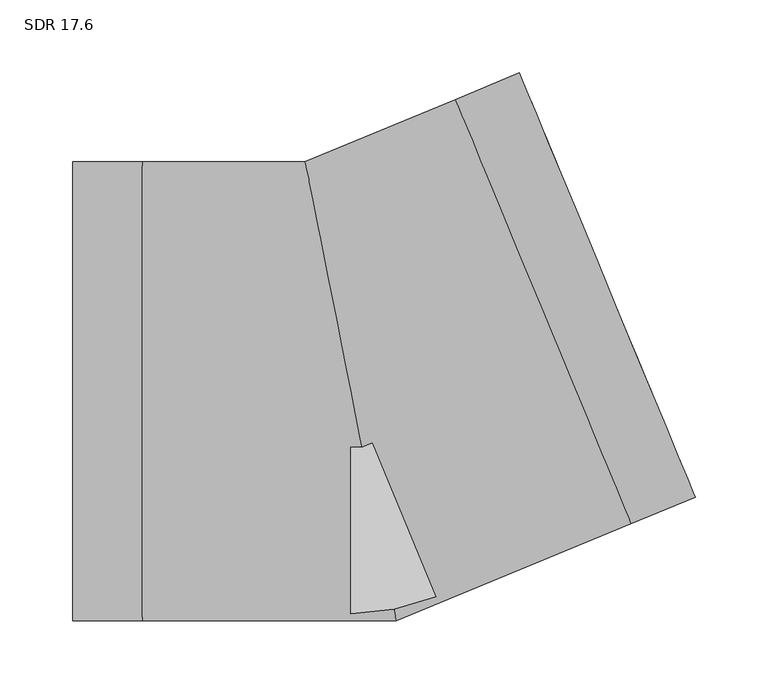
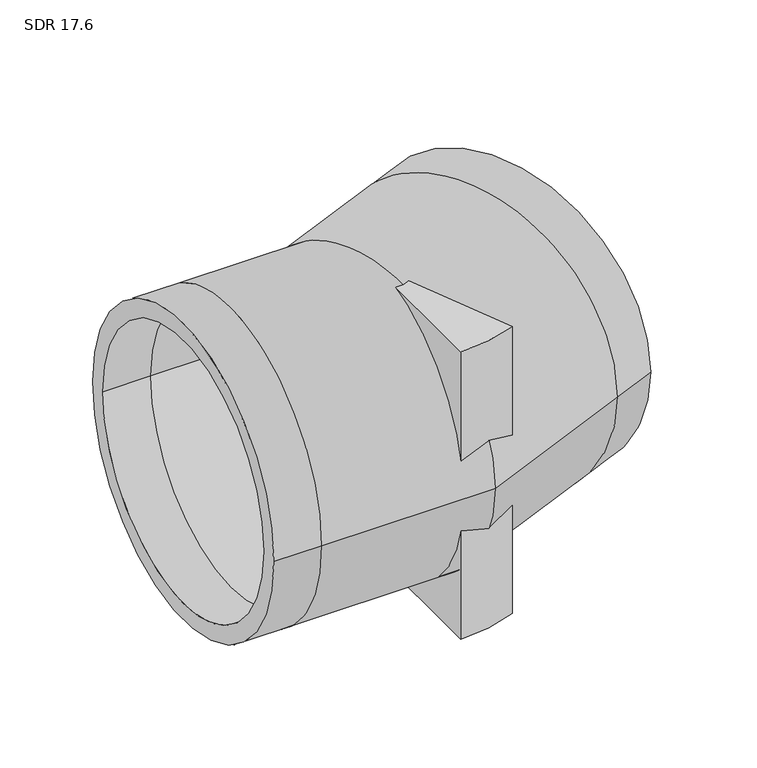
"""IFC4 building model written with IfcOpenShell, lengths in millimetres: pipe fitting geometry, Aquatherm - Elbow Blue BW Segmented : SDR 17.6."""

from ifc_helpers import new_model, si_unit, point, frame, origin, origin_with_axes, origin_2d, place, context, project, spatial, polyline, circle_curve, ellipse_curve, trimmed, segment, composite_curve, outline, extrude, source, transform, mapped, element, save
from ifc_brep_helpers import plane_surface, cylinder_surface, revolved_surface, advanced_brep


def sdr_17_6_59ab2738(model_context):
    return source(origin(), model_context, "Body", "SolidModel", [
        extrude(outline(composite_curve([segment(polyline([(0.0, -152.4), (0.0, 0.0), (58.3209551, -140.7992408)]), True, "CONTINUOUS"), segment(trimmed(circle_curve(origin_2d(), 152.4), [point((58.3209551, -140.7992408))], [point((0.0, -152.4))], False, "CARTESIAN"), True, "CONTINUOUS")], self_intersect=False)), frame((0.0, 0.0, -152.4), z_axis=(0.0, 0.0, 1.0), x_axis=(1.0, 0.0, 0.0)), (0.0, 0.0, 1.0), 152.4),
        extrude(outline(composite_curve([segment(trimmed(circle_curve(origin_2d(), 152.4), [point((58.3209551, -140.7992408))], [point((0.0, -152.4))], False, "CARTESIAN"), True, "CONTINUOUS"), segment(polyline([(0.0, -152.4), (0.0, 0.0), (58.3209551, -140.7992408)]), True, "CONTINUOUS")], self_intersect=False)), origin_with_axes(), (0.0, 0.0, 1.0), 152.4),
        advanced_brep(
        [(-190.5, -157.48, 0.0), (-190.5, 157.48, 0.0), (-190.5, -139.586134, 0.0), (-190.5, 139.586134, 0.0), (236.2640379, -72.5913549, 0.0), (115.734064, 218.3937426, 0.0), (229.4163518, -56.0595784, 0.0), (122.5817501, 201.8619661, 0.0), (-142.875, -157.48, 0.0), (-142.875, 157.48, 0.0), (-142.875, -139.586134, 0.0), (-142.875, 139.586134, 0.0), (31.3247196, -157.48, 0.0), (-31.3247196, 157.48, 0.0), (27.7654084, -139.586134, 0.0), (-27.7654084, 139.586134, 0.0), (192.2642751, -90.8166534, 0.0), (71.7343013, 200.1684442, 0.0), (185.4165891, -74.2848769, 0.0), (78.5819873, 183.6366677, 0.0)],
        [
            (0, 1, circle_curve(frame((-190.5, 0.0, 0.0), z_axis=(-1.0, 0.0, 0.0), x_axis=(0.0, 1.0, 0.0)), 157.48)),
            (1, 0, circle_curve(frame((-190.5, 0.0, 0.0), z_axis=(-1.0, 0.0, 0.0), x_axis=(0.0, 1.0, 0.0)), 157.48)),
            (2, 3, circle_curve(frame((-190.5, 0.0, 0.0), z_axis=(1.0, 0.0, 0.0), x_axis=(0.0, 1.0, 0.0)), 139.586134)),
            (3, 2, circle_curve(frame((-190.5, 0.0, 0.0), z_axis=(1.0, 0.0, 0.0), x_axis=(0.0, 1.0, 0.0)), 139.586134)),
            (4, 5, circle_curve(frame((175.9990509, 72.9011939, 0.0), z_axis=(0.9238795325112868, 0.3826834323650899, 0.0), x_axis=(-0.3826834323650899, 0.9238795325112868, 0.0)), 157.48)),
            (5, 4, circle_curve(frame((175.9990509, 72.9011939, 0.0), z_axis=(0.9238795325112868, 0.3826834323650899, 0.0), x_axis=(-0.3826834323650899, 0.9238795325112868, 0.0)), 157.48)),
            (6, 7, circle_curve(frame((175.9990509, 72.9011939, 0.0), z_axis=(-0.9238795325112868, -0.3826834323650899, 0.0), x_axis=(-0.3826834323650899, 0.9238795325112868, 0.0)), 139.586134)),
            (7, 6, circle_curve(frame((175.9990509, 72.9011939, 0.0), z_axis=(-0.9238795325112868, -0.3826834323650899, 0.0), x_axis=(-0.3826834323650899, 0.9238795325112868, 0.0)), 139.586134)),
            (0, 8),
            (8, 9, circle_curve(frame((-142.875, 0.0, 0.0), z_axis=(-1.0, 0.0, 0.0), x_axis=(0.0, 1.0, 0.0)), 157.48)),
            (9, 1),
            (9, 8, circle_curve(frame((-142.875, 0.0, 0.0), z_axis=(-1.0, 0.0, 0.0), x_axis=(0.0, 1.0, 0.0)), 157.48)),
            (2, 10),
            (10, 11, circle_curve(frame((-142.875, 0.0, 0.0), z_axis=(1.0, 0.0, 0.0), x_axis=(0.0, 1.0, 0.0)), 139.586134)),
            (11, 3),
            (11, 10, circle_curve(frame((-142.875, 0.0, 0.0), z_axis=(1.0, 0.0, 0.0), x_axis=(0.0, 1.0, 0.0)), 139.586134)),
            (8, 12),
            (12, 13, ellipse_curve(frame((0.0, 0.0, 0.0), z_axis=(-0.9807852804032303, -0.19509032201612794, 0.0), x_axis=(-0.19509032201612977, 0.9807852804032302, 0.0)), 160.5652156, 157.48)),
            (13, 9),
            (13, 12, ellipse_curve(frame((0.0, 0.0, 0.0), z_axis=(-0.9807852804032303, -0.19509032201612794, 0.0), x_axis=(-0.19509032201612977, 0.9807852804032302, 0.0)), 160.5652156, 157.48)),
            (10, 14),
            (14, 15, ellipse_curve(frame((0.0, 0.0, 0.0), z_axis=(0.9807852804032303, 0.19509032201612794, 0.0), x_axis=(0.19509032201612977, -0.9807852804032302, 0.0)), 142.3207881, 139.586134)),
            (15, 11),
            (15, 14, ellipse_curve(frame((0.0, 0.0, 0.0), z_axis=(0.9807852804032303, 0.19509032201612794, 0.0), x_axis=(0.19509032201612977, -0.9807852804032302, 0.0)), 142.3207881, 139.586134)),
            (12, 16),
            (16, 17, circle_curve(frame((131.9992882, 54.6758954, 0.0), z_axis=(-0.9238795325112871, -0.3826834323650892, 0.0), x_axis=(-0.3826834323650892, 0.9238795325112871, 0.0)), 157.48)),
            (17, 13),
            (17, 16, circle_curve(frame((131.9992882, 54.6758954, 0.0), z_axis=(-0.9238795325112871, -0.3826834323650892, 0.0), x_axis=(-0.3826834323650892, 0.9238795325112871, 0.0)), 157.48)),
            (14, 18),
            (18, 19, circle_curve(frame((131.9992882, 54.6758954, 0.0), z_axis=(0.9238795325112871, 0.3826834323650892, 0.0), x_axis=(-0.3826834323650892, 0.9238795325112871, 0.0)), 139.586134)),
            (19, 15),
            (19, 18, circle_curve(frame((131.9992882, 54.6758954, 0.0), z_axis=(0.9238795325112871, 0.3826834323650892, 0.0), x_axis=(-0.3826834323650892, 0.9238795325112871, 0.0)), 139.586134)),
            (16, 4),
            (5, 17),
            (18, 6),
            (7, 19),
        ],
        [
            plane_surface(frame((-190.5, 0.0, 0.0), z_axis=(-1.0, 0.0, 0.0), x_axis=(0.0, 0.0, 1.0))),
            plane_surface(frame((175.9990509, 72.9011939, 0.0), z_axis=(0.9238795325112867, 0.3826834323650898, 0.0), x_axis=(0.0, 0.0, 1.0))),
            cylinder_surface(frame((-190.5, 0.0, 0.0), z_axis=(-1.0, 0.0, 0.0), x_axis=(0.0, 1.0, 0.0)), 157.48),
            revolved_surface(polyline([(-142.875, 139.586134, 0.0), (-190.5, 139.586134, 0.0)]), (-190.5, 0.0, 0.0), (1.0, 0.0, 0.0)),
            cylinder_surface(frame((-142.875, 0.0, 0.0), z_axis=(-1.0, 0.0, 0.0), x_axis=(0.0, 1.0, 0.0)), 157.48),
            revolved_surface(polyline([(27.765408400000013, 139.586134, 0.0), (-142.875, 139.586134, 0.0)]), (-142.875, 0.0, 0.0), (1.0, 0.0, 0.0)),
            cylinder_surface(frame((0.0, 0.0, 0.0), z_axis=(-0.9238795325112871, -0.3826834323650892, 0.0), x_axis=(-0.3826834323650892, 0.9238795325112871, 0.0)), 157.48),
            revolved_surface(polyline([(78.58198733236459, 183.636667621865, 0.0), (-79.06919338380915, 118.33541044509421, 0.0)]), (0.0, 0.0, 0.0), (0.9238795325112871, 0.3826834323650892, 0.0)),
            cylinder_surface(frame((131.9992882, 54.6758954, 0.0), z_axis=(-0.9238795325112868, -0.3826834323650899, 0.0), x_axis=(-0.3826834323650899, 0.9238795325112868, 0.0)), 157.48),
            revolved_surface(polyline([(122.58175009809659, 201.86196610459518, 0.0), (78.58198732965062, 183.63666762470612, 0.0)]), (131.9992882, 54.6758954, 0.0), (0.9238795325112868, 0.3826834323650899, 0.0)),
        ],
        [
            (0, [[1, 2], [3, 4]]),
            (1, [[5, 6], [7, 8]]),
            (2, [[-1, 9, 10, 11]]),
            (2, [[-2, -11, 12, -9]]),
            (3, [[-3, 13, 14, 15]]),
            (3, [[-4, -15, 16, -13]]),
            (4, [[-10, 17, 18, 19]]),
            (4, [[-12, -19, 20, -17]]),
            (5, [[-14, 21, 22, 23]]),
            (5, [[-16, -23, 24, -21]]),
            (6, [[-18, 25, 26, 27]]),
            (6, [[-20, -27, 28, -25]]),
            (7, [[-22, 29, 30, 31]]),
            (7, [[-24, -31, 32, -29]]),
            (8, [[-26, 33, -6, 34]]),
            (8, [[-28, -34, -5, -33]]),
            (9, [[-30, 35, -8, 36]]),
            (9, [[-32, -36, -7, -35]]),
        ],
    ),
    ])


if __name__ == "__main__":
    model = new_model("IFC4")
    model_context = context("Model", 3, world=origin())
    ifc_project = project(units=[si_unit("LENGTHUNIT", "METRE", prefix="MILLI")], contexts=[model_context])
    site = spatial("IfcSite", under=ifc_project)
    building = spatial("IfcBuilding", under=site)
    placement = place(None, origin())
    sdr_17_6_shape = sdr_17_6_59ab2738(model_context)
    element("IfcPipeFitting", 1, ObjectType="Aquatherm - Elbow Blue BW Segmented : SDR 17.6", at=placement, inside=building, context=model_context, shape_type="MappedRepresentation", body=[
        mapped(sdr_17_6_shape, transform((0.0, 0.0, 0.0), x_axis=(1.0, 0.0, 0.0), y_axis=(0.0, 1.0, 0.0), z_axis=(0.0, 0.0, 1.0))),
    ])
    save(model, "model.ifc")
